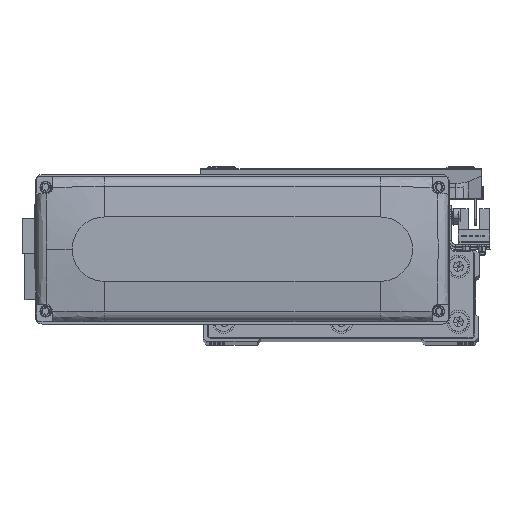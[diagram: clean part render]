
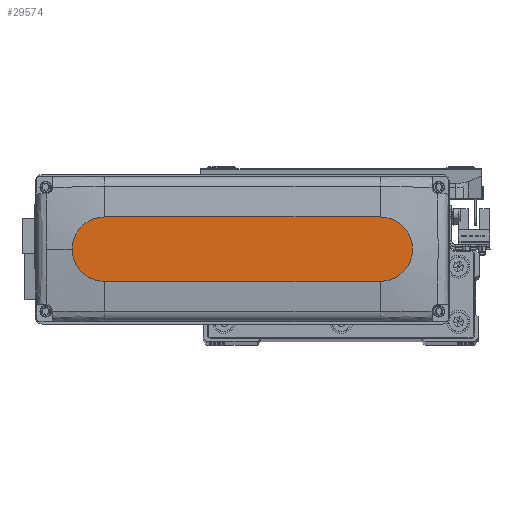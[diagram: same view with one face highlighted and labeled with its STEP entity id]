
A CAD part, top view. The second image highlights one B-rep face of the part: STEP entity #29574.
In plain terms, the highlighted planar face has unit normal (0, 0, 1).
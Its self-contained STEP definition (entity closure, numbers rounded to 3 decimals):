
#3174 = ORIENTED_EDGE ( 'NONE', *, *, #26796, .T. ) ;
#3235 = DIRECTION ( 'NONE',  ( 1., 0., 0. ) ) ;
#5315 = DIRECTION ( 'NONE',  ( 1., 0., 0. ) ) ;
#8746 = VECTOR ( 'NONE', #11445, 1000. ) ;
#8794 = CARTESIAN_POINT ( 'NONE',  ( 60., 14., 28.5 ) ) ;
#8879 = DIRECTION ( 'NONE',  ( 1., 0., 0. ) ) ;
#9659 = CARTESIAN_POINT ( 'NONE',  ( 60., 0., 28.5 ) ) ;
#10659 = EDGE_CURVE ( 'NONE', #29416, #44393, #37596, .T. ) ;
#11295 = CIRCLE ( 'NONE', #24136, 14. ) ;
#11445 = DIRECTION ( 'NONE',  ( -1., 0., 0. ) ) ;
#11522 = VECTOR ( 'NONE', #40506, 1000. ) ;
#11687 = LINE ( 'NONE', #26099, #11522 ) ;
#13086 = FACE_OUTER_BOUND ( 'NONE', #46091, .T. ) ;
#14285 = LINE ( 'NONE', #25379, #8746 ) ;
#17950 = AXIS2_PLACEMENT_3D ( 'NONE', #41239, #38160, #8879 ) ;
#18533 = VERTEX_POINT ( 'NONE', #25024 ) ;
#20198 = EDGE_CURVE ( 'NONE', #27463, #18533, #35915, .T. ) ;
#20696 = ORIENTED_EDGE ( 'NONE', *, *, #20198, .T. ) ;
#20968 = CARTESIAN_POINT ( 'NONE',  ( 60., -14., 28.5 ) ) ;
#20979 = DIRECTION ( 'NONE',  ( 1., 0., 0. ) ) ;
#21210 = CARTESIAN_POINT ( 'NONE',  ( -60., 14., 28.5 ) ) ;
#24136 = AXIS2_PLACEMENT_3D ( 'NONE', #9659, #45779, #20979 ) ;
#24429 = PLANE ( 'NONE',  #27205 ) ;
#25024 = CARTESIAN_POINT ( 'NONE',  ( -60., -14., 28.5 ) ) ;
#25379 = CARTESIAN_POINT ( 'NONE',  ( -60., 14., 28.5 ) ) ;
#26099 = CARTESIAN_POINT ( 'NONE',  ( -60., -14., 28.5 ) ) ;
#26796 = EDGE_CURVE ( 'NONE', #18533, #40126, #11687, .T. ) ;
#26826 = ORIENTED_EDGE ( 'NONE', *, *, #38789, .T. ) ;
#27205 = AXIS2_PLACEMENT_3D ( 'NONE', #45916, #37911, #5315 ) ;
#27319 = EDGE_CURVE ( 'NONE', #40126, #29416, #11295, .T. ) ;
#27463 = VERTEX_POINT ( 'NONE', #21210 ) ;
#28203 = ORIENTED_EDGE ( 'NONE', *, *, #10659, .T. ) ;
#28759 = ORIENTED_EDGE ( 'NONE', *, *, #27319, .T. ) ;
#28979 = CARTESIAN_POINT ( 'NONE',  ( -60., 0., 28.5 ) ) ;
#29416 = VERTEX_POINT ( 'NONE', #44745 ) ;
#29574 = ADVANCED_FACE ( 'NONE', ( #13086 ), #24429, .T. ) ;
#35915 = CIRCLE ( 'NONE', #37430, 14. ) ;
#37430 = AXIS2_PLACEMENT_3D ( 'NONE', #28979, #38930, #3235 ) ;
#37596 = CIRCLE ( 'NONE', #17950, 14. ) ;
#37911 = DIRECTION ( 'NONE',  ( 0., 0., 1. ) ) ;
#38160 = DIRECTION ( 'NONE',  ( 0., 0., 1. ) ) ;
#38789 = EDGE_CURVE ( 'NONE', #44393, #27463, #14285, .T. ) ;
#38930 = DIRECTION ( 'NONE',  ( 0., 0., 1. ) ) ;
#40126 = VERTEX_POINT ( 'NONE', #20968 ) ;
#40506 = DIRECTION ( 'NONE',  ( 1., 0., 0. ) ) ;
#41239 = CARTESIAN_POINT ( 'NONE',  ( 60., 0., 28.5 ) ) ;
#44393 = VERTEX_POINT ( 'NONE', #8794 ) ;
#44745 = CARTESIAN_POINT ( 'NONE',  ( 74., 0., 28.5 ) ) ;
#45779 = DIRECTION ( 'NONE',  ( 0., 0., 1. ) ) ;
#45916 = CARTESIAN_POINT ( 'NONE',  ( 0., 0., 28.5 ) ) ;
#46091 = EDGE_LOOP ( 'NONE', ( #26826, #20696, #3174, #28759, #28203 ) ) ;
